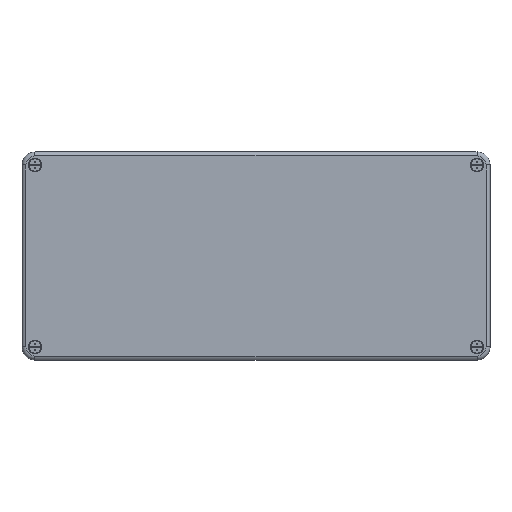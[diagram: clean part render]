
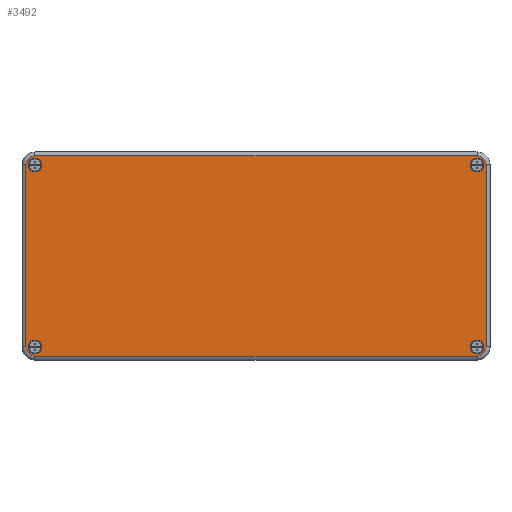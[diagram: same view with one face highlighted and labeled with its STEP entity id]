
A CAD part, top view. The second image highlights one B-rep face of the part: STEP entity #3492.
In plain terms, the highlighted planar face has unit normal (0, 0, 1).
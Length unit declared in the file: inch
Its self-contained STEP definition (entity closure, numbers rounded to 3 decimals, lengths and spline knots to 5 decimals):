
#1=CARTESIAN_POINT('',(6.69291,-2.75591,3.58268));
#2=DIRECTION('',(0.,0.,1.));
#3=DIRECTION('',(0.,-1.,0.));
#4=AXIS2_PLACEMENT_3D('',#1,#2,#3);
#6=DIRECTION('',(1.,0.,0.));
#7=VECTOR('',#6,13.38583);
#8=CARTESIAN_POINT('',(-6.69291,-3.0315,3.58268));
#9=LINE('',#8,#7);
#10=CARTESIAN_POINT('',(-6.69291,-2.75591,3.58268));
#11=DIRECTION('',(0.,0.,1.));
#12=DIRECTION('',(-1.,0.,0.));
#13=AXIS2_PLACEMENT_3D('',#10,#11,#12);
#15=DIRECTION('',(0.,-1.,0.));
#16=VECTOR('',#15,5.51181);
#17=CARTESIAN_POINT('',(-6.9685,2.75591,3.58268));
#18=LINE('',#17,#16);
#19=CARTESIAN_POINT('',(-6.69291,2.75591,3.58268));
#20=DIRECTION('',(0.,0.,1.));
#21=DIRECTION('',(0.,1.,0.));
#22=AXIS2_PLACEMENT_3D('',#19,#20,#21);
#24=DIRECTION('',(-1.,0.,0.));
#25=VECTOR('',#24,13.38583);
#26=CARTESIAN_POINT('',(6.69291,3.0315,3.58268));
#27=LINE('',#26,#25);
#28=CARTESIAN_POINT('',(6.69291,2.75591,3.58268));
#29=DIRECTION('',(0.,0.,1.));
#30=DIRECTION('',(1.,0.,0.));
#31=AXIS2_PLACEMENT_3D('',#28,#29,#30);
#33=DIRECTION('',(0.,1.,0.));
#34=VECTOR('',#33,5.51181);
#35=CARTESIAN_POINT('',(6.9685,-2.75591,3.58268));
#36=LINE('',#35,#34);
#37=CARTESIAN_POINT('',(-6.69291,-2.75591,3.58268));
#38=DIRECTION('',(0.,0.,1.));
#39=DIRECTION('',(-1.,0.,0.));
#40=AXIS2_PLACEMENT_3D('',#37,#38,#39);
#42=CARTESIAN_POINT('',(-6.69291,-2.75591,3.58268));
#43=DIRECTION('',(0.,0.,1.));
#44=DIRECTION('',(1.,0.,0.));
#45=AXIS2_PLACEMENT_3D('',#42,#43,#44);
#47=CARTESIAN_POINT('',(-6.69291,2.75591,3.58268));
#48=DIRECTION('',(0.,0.,1.));
#49=DIRECTION('',(-1.,0.,0.));
#50=AXIS2_PLACEMENT_3D('',#47,#48,#49);
#52=CARTESIAN_POINT('',(-6.69291,2.75591,3.58268));
#53=DIRECTION('',(0.,0.,1.));
#54=DIRECTION('',(1.,0.,0.));
#55=AXIS2_PLACEMENT_3D('',#52,#53,#54);
#57=CARTESIAN_POINT('',(6.69291,2.75591,3.58268));
#58=DIRECTION('',(0.,0.,1.));
#59=DIRECTION('',(-1.,0.,0.));
#60=AXIS2_PLACEMENT_3D('',#57,#58,#59);
#62=CARTESIAN_POINT('',(6.69291,2.75591,3.58268));
#63=DIRECTION('',(0.,0.,1.));
#64=DIRECTION('',(1.,0.,0.));
#65=AXIS2_PLACEMENT_3D('',#62,#63,#64);
#67=CARTESIAN_POINT('',(6.69291,-2.75591,3.58268));
#68=DIRECTION('',(0.,0.,1.));
#69=DIRECTION('',(-1.,0.,0.));
#70=AXIS2_PLACEMENT_3D('',#67,#68,#69);
#72=CARTESIAN_POINT('',(6.69291,-2.75591,3.58268));
#73=DIRECTION('',(0.,0.,1.));
#74=DIRECTION('',(1.,0.,0.));
#75=AXIS2_PLACEMENT_3D('',#72,#73,#74);
#3037=CARTESIAN_POINT('',(-6.89961,-2.75591,
3.58268));
#3038=CARTESIAN_POINT('',(-6.48622,-2.75591,
3.58268));
#3039=VERTEX_POINT('',#3037);
#3040=VERTEX_POINT('',#3038);
#3041=CARTESIAN_POINT('',(-6.89961,2.75591,3.58268));
#3042=CARTESIAN_POINT('',(-6.48622,2.75591,3.58268));
#3043=VERTEX_POINT('',#3041);
#3044=VERTEX_POINT('',#3042);
#3045=CARTESIAN_POINT('',(6.48622,2.75591,3.58268));
#3046=CARTESIAN_POINT('',(6.89961,2.75591,3.58268));
#3047=VERTEX_POINT('',#3045);
#3048=VERTEX_POINT('',#3046);
#3049=CARTESIAN_POINT('',(6.48622,-2.75591,3.58268));
#3050=CARTESIAN_POINT('',(6.89961,-2.75591,3.58268));
#3051=VERTEX_POINT('',#3049);
#3052=VERTEX_POINT('',#3050);
#3053=CARTESIAN_POINT('',(6.69291,-3.0315,3.58268));
#3054=CARTESIAN_POINT('',(6.9685,-2.75591,3.58268));
#3055=VERTEX_POINT('',#3053);
#3056=VERTEX_POINT('',#3054);
#3061=CARTESIAN_POINT('',(6.9685,2.75591,3.58268));
#3062=VERTEX_POINT('',#3061);
#3065=CARTESIAN_POINT('',(6.69291,3.0315,3.58268));
#3066=VERTEX_POINT('',#3065);
#3069=CARTESIAN_POINT('',(-6.69291,3.0315,3.58268));
#3070=VERTEX_POINT('',#3069);
#3073=CARTESIAN_POINT('',(-6.9685,2.75591,3.58268));
#3074=VERTEX_POINT('',#3073);
#3077=CARTESIAN_POINT('',(-6.9685,-2.75591,
3.58268));
#3078=VERTEX_POINT('',#3077);
#3081=CARTESIAN_POINT('',(-6.69291,-3.0315,
3.58268));
#3082=VERTEX_POINT('',#3081);
#3445=CARTESIAN_POINT('',(0.,0.,3.58268));
#3446=DIRECTION('',(0.,0.,-1.));
#3447=DIRECTION('',(1.,0.,0.));
#3448=AXIS2_PLACEMENT_3D('',#3445,#3446,#3447);
#3449=PLANE('',#3448);
#3451=ORIENTED_EDGE('',*,*,#3450,.F.);
#3453=ORIENTED_EDGE('',*,*,#3452,.F.);
#3455=ORIENTED_EDGE('',*,*,#3454,.F.);
#3457=ORIENTED_EDGE('',*,*,#3456,.F.);
#3459=ORIENTED_EDGE('',*,*,#3458,.F.);
#3461=ORIENTED_EDGE('',*,*,#3460,.F.);
#3463=ORIENTED_EDGE('',*,*,#3462,.F.);
#3465=ORIENTED_EDGE('',*,*,#3464,.F.);
#3466=EDGE_LOOP('',(#3451,#3453,#3455,#3457,#3459,#3461,#3463,#3465));
#3467=FACE_OUTER_BOUND('',#3466,.F.);
#3469=ORIENTED_EDGE('',*,*,#3468,.T.);
#3471=ORIENTED_EDGE('',*,*,#3470,.T.);
#3472=EDGE_LOOP('',(#3469,#3471));
#3473=FACE_BOUND('',#3472,.F.);
#3475=ORIENTED_EDGE('',*,*,#3474,.T.);
#3477=ORIENTED_EDGE('',*,*,#3476,.T.);
#3478=EDGE_LOOP('',(#3475,#3477));
#3479=FACE_BOUND('',#3478,.F.);
#3481=ORIENTED_EDGE('',*,*,#3480,.T.);
#3483=ORIENTED_EDGE('',*,*,#3482,.T.);
#3484=EDGE_LOOP('',(#3481,#3483));
#3485=FACE_BOUND('',#3484,.F.);
#3487=ORIENTED_EDGE('',*,*,#3486,.T.);
#3489=ORIENTED_EDGE('',*,*,#3488,.T.);
#3490=EDGE_LOOP('',(#3487,#3489));
#3491=FACE_BOUND('',#3490,.F.);
#3492=ADVANCED_FACE('',(#3467,#3473,#3479,#3485,#3491),#3449,.F.);
#5=CIRCLE('',#4,0.27559);
#14=CIRCLE('',#13,0.27559);
#23=CIRCLE('',#22,0.27559);
#32=CIRCLE('',#31,0.27559);
#41=CIRCLE('',#40,0.20669);
#46=CIRCLE('',#45,0.20669);
#51=CIRCLE('',#50,0.20669);
#56=CIRCLE('',#55,0.20669);
#61=CIRCLE('',#60,0.20669);
#66=CIRCLE('',#65,0.20669);
#71=CIRCLE('',#70,0.20669);
#76=CIRCLE('',#75,0.20669);
#3450=EDGE_CURVE('',#3055,#3056,#5,.T.);
#3452=EDGE_CURVE('',#3082,#3055,#9,.T.);
#3454=EDGE_CURVE('',#3078,#3082,#14,.T.);
#3456=EDGE_CURVE('',#3074,#3078,#18,.T.);
#3458=EDGE_CURVE('',#3070,#3074,#23,.T.);
#3460=EDGE_CURVE('',#3066,#3070,#27,.T.);
#3462=EDGE_CURVE('',#3062,#3066,#32,.T.);
#3464=EDGE_CURVE('',#3056,#3062,#36,.T.);
#3468=EDGE_CURVE('',#3039,#3040,#41,.T.);
#3470=EDGE_CURVE('',#3040,#3039,#46,.T.);
#3474=EDGE_CURVE('',#3043,#3044,#51,.T.);
#3476=EDGE_CURVE('',#3044,#3043,#56,.T.);
#3480=EDGE_CURVE('',#3047,#3048,#61,.T.);
#3482=EDGE_CURVE('',#3048,#3047,#66,.T.);
#3486=EDGE_CURVE('',#3051,#3052,#71,.T.);
#3488=EDGE_CURVE('',#3052,#3051,#76,.T.);
